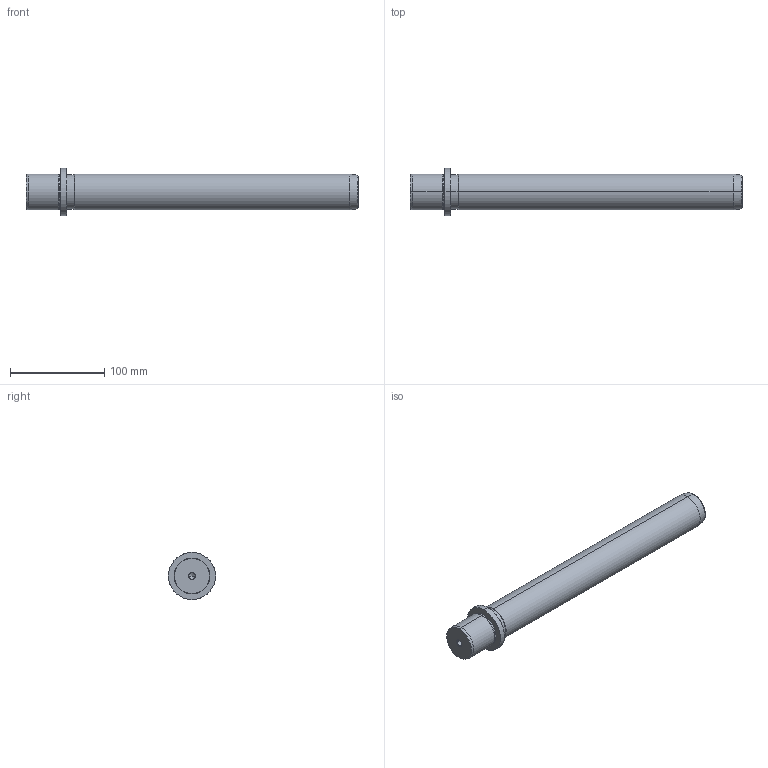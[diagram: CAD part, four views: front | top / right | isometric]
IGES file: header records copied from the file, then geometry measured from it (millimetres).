
Start section: START RECORD GO HERE.
Global section: file name: 719-38x315.igs; native system: DASSAULT SYSTEMES CATIA V5 R20 - www.3ds.com; preprocessor: CATIA Version 5 Release 20 ; author: Utente; organization: NB04-ASUS; date: 20210103.163459; units: millimetre
Bounding box: 352 x 50 x 50 mm (x, y, z)
Surface area: 47029.6 mm2 (no closed solid volume)
Topology: 0 solids, 0 shells, 36 faces, 196 edges, 192 vertices
Faces by surface type: revolution 32, plane 4
